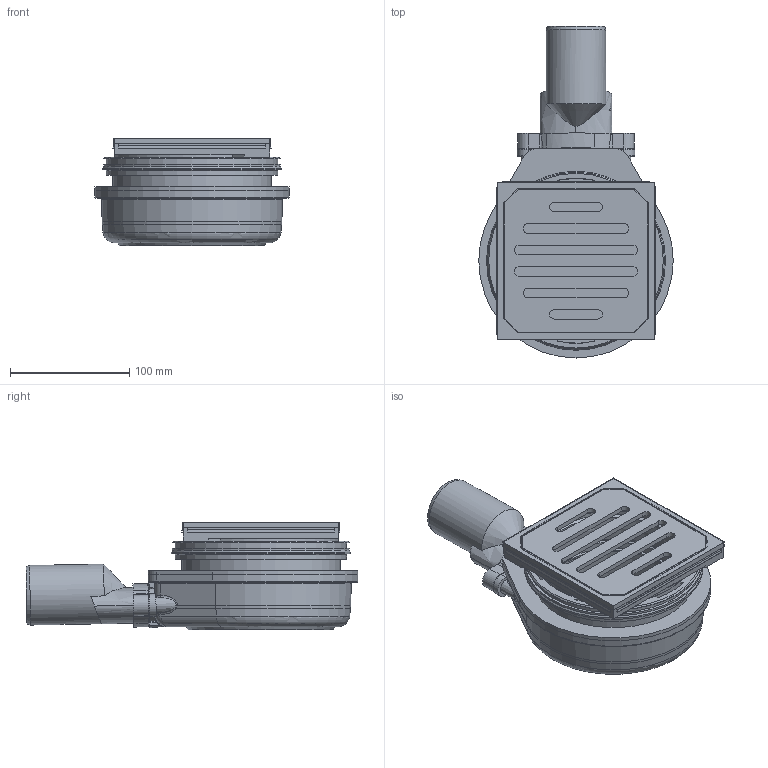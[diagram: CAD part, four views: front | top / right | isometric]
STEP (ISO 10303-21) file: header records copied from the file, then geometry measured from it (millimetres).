
FILE_DESCRIPTION(/* description */ (''),/* implementation_level */ '2;1');
FILE_NAME(/* name */ 'C:\Geberit-Teile\Export 2019\388.032.00.1\stp\388032.stp',/* time_stamp */ '2019-06-27T13:03:45+02:00',/* author */ ('JANAN'),/* organization */ (''),/* preprocessor_version */ 'ST-DEVELOPER v16.13',/* originating_system */ 'Autodesk Inventor 2018',/* authorisation */ '');
FILE_SCHEMA (('AUTOMOTIVE_DESIGN { 1 0 10303 214 3 1 1 }'));
Length unit declared in the file: millimetre
Products named in the file (2): Balkoneinlauf horizontal d50; 388.032.00.1
Assembly tree (1 placements, depth 2):
  Balkoneinlauf horizontal d50
    388.032.00.1
Bounding box: 163 x 278.3 x 90.5 mm (x, y, z)
Volume: 307351.6 mm3; surface area: 327231.3 mm2
Topology: 5 solids, 8 shells, 1344 faces, 3562 edges, 2228 vertices
Faces by surface type: bspline 466, plane 416, cylinder 278, cone 79, torus 69, sphere 36
Full cylindrical faces by diameter (mm): 6.5 x2, 50 x1, 129.6 x1, 133 x1, 138.4 x1, 143.75 x1, 143.8 x1, 148.23 x2, 150 x1
Entity records: 70163 total; most frequent: CARTESIAN_POINT 38036, ORIENTED_EDGE 6918, DIRECTION 5804, EDGE_CURVE 3455, VERTEX_POINT 2206, AXIS2_PLACEMENT_3D 2182, EDGE_LOOP 1453, LINE 1440
